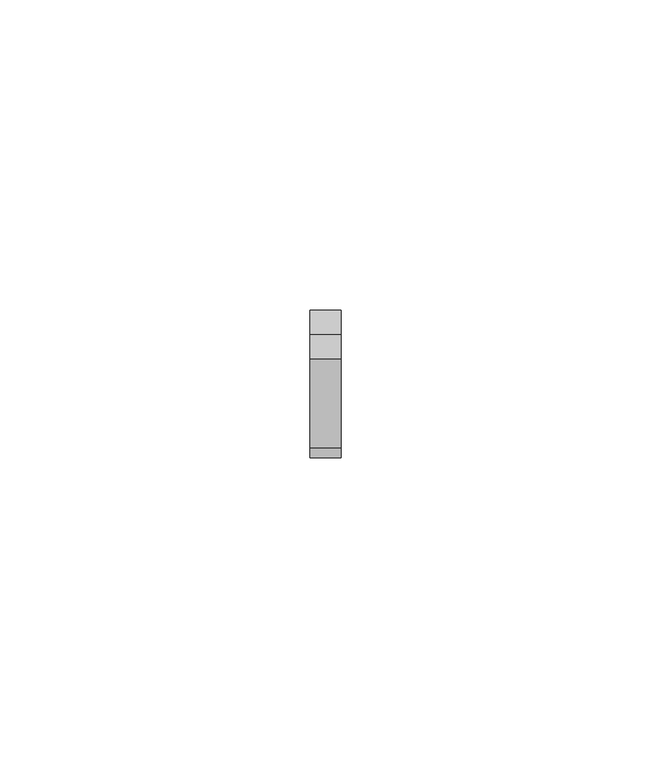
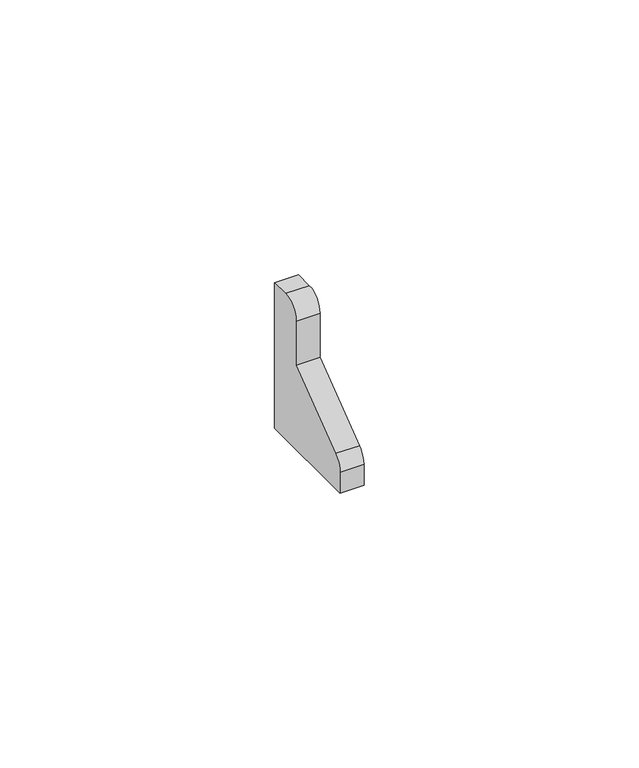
"""IFC4 building model written with IfcOpenShell, lengths in millimetres: proxy geometry, Odbojnik przyścienny K30 : Odbojnik przyścienny K30."""

from ifc_helpers import new_model, si_unit, frame, origin, place, context, project, spatial, circle_curve, source, transform, mapped, element, save
from ifc_brep_helpers import plane_surface, cylinder_surface, advanced_brep


def generic_models_93ca83c9(model_context):
    return source(origin(), model_context, "Body", "AdvancedBrep", [
        advanced_brep(
        [(2.5, 7.3720356, 24.7926359), (2.5, 3.4590893, 24.7926359), (2.5, -0.4350252, 21.0413357), (2.5, -0.4354121, 11.2071156), (2.5, -14.835873, 0.3595111), (2.5, -16.4291679, -2.8354491), (2.5, -16.4291679, -7.4688605), (2.5, 7.3720356, -7.4688605), (2.5, 7.3720356, 4.5973234), (2.5, 7.3720356, 8.5973234), (-2.5, 7.3720356, 24.7926359), (-2.5, 7.3720356, 8.5973234), (-2.5, 7.3720356, 4.5973234), (-2.5, 7.3720356, -7.4688605), (-2.5, -16.4291679, -7.4688605), (-2.5, -16.4291679, -2.8354491), (-2.5, -14.835873, 0.3595111), (-2.5, -0.4354121, 11.2071156), (-2.5, -0.4354121, 21.0412962), (-2.5, 3.4590893, 24.7926359)],
        [
            (0, 1),
            (1, 2, circle_curve(frame((2.5, 3.3190368, 21.0411872), z_axis=(1.0, 0.0, 0.0), x_axis=(0.0, -0.9999999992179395, 3.954897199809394e-05)), 3.754062)),
            (2, 3),
            (3, 4),
            (4, 5, circle_curve(frame((2.5, -12.4291679, -2.8354491), z_axis=(1.0, 0.0, 0.0), x_axis=(0.0, -1.0, 0.0)), 4.0)),
            (5, 6),
            (6, 7),
            (7, 8),
            (8, 9),
            (9, 0),
            (10, 11),
            (11, 12),
            (12, 13),
            (13, 14),
            (14, 15),
            (15, 16, circle_curve(frame((-2.5, -12.4291679, -2.8354491), z_axis=(-1.0, 0.0, 0.0), x_axis=(0.0, -1.0, 0.0)), 4.0)),
            (16, 17),
            (17, 18),
            (18, 19, circle_curve(frame((-2.5, 3.3190368, 21.0411872), z_axis=(-1.0, 0.0, 0.0), x_axis=(0.0, -0.9999999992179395, 3.954897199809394e-05)), 3.754062)),
            (19, 10),
            (6, 14),
            (13, 7),
            (12, 8),
            (11, 9),
            (10, 0),
            (19, 1),
            (18, 2),
            (17, 3),
            (16, 4),
            (15, 5),
        ],
        [
            plane_surface(frame((2.5, 7.3720356, 24.7926359), z_axis=(1.0, 0.0, 0.0), x_axis=(0.0, -1.0, 0.0))),
            plane_surface(frame((-2.5, 7.3720356, 24.7926359), z_axis=(-1.0, 0.0, 0.0), x_axis=(0.0, 1.0, 0.0))),
            plane_surface(frame((2.5, -16.4291679, -7.4688605), z_axis=(0.0, 0.0, -1.0), x_axis=(-1.0, 0.0, 0.0))),
            plane_surface(frame((2.5, 7.3720356, -7.4688605), z_axis=(0.0, 1.0, 0.0), x_axis=(-1.0, 0.0, 0.0))),
            plane_surface(frame((2.5, 7.3720356, 4.5973234), z_axis=(0.0, 1.0, -1.1571556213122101e-12), x_axis=(-1.0, 0.0, 0.0))),
            plane_surface(frame((2.5, 7.3720356, 8.5973234), z_axis=(0.0, 1.0, 0.0), x_axis=(-1.0, 0.0, 0.0))),
            plane_surface(frame((2.5, 7.3720356, 24.7926359), z_axis=(0.0, 0.0, 1.0), x_axis=(-1.0, 0.0, 0.0))),
            cylinder_surface(frame((-2.5, 3.3190368, 21.0411872), z_axis=(1.0000000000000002, 0.0, 0.0), x_axis=(0.0, -0.9999999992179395, 3.954897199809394e-05)), 3.754062),
            plane_surface(frame((2.5, -0.4354121, 21.0412962), z_axis=(0.0, -1.0, 0.0), x_axis=(-1.0, 0.0, 0.0))),
            plane_surface(frame((2.5, -0.4354121, 11.2071156), z_axis=(0.0, -0.601676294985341, 0.7987400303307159), x_axis=(-1.0, 0.0, 0.0))),
            cylinder_surface(frame((-2.5, -12.4291679, -2.8354491), z_axis=(1.0, 0.0, 0.0), x_axis=(0.0, -1.0, 0.0)), 4.0),
            plane_surface(frame((2.5, -16.4291679, -2.8354491), z_axis=(0.0, -1.0, 0.0), x_axis=(-1.0, 0.0, 0.0))),
        ],
        [
            (0, [[1, 2, 3, 4, 5, 6, 7, 8, 9, 10]]),
            (1, [[11, 12, 13, 14, 15, 16, 17, 18, 19, 20]]),
            (2, [[-7, 21, -14, 22]]),
            (3, [[-8, -22, -13, 23]]),
            (4, [[-9, -23, -12, 24]]),
            (5, [[-10, -24, -11, 25]]),
            (6, [[-1, -25, -20, 26]]),
            (7, [[-2, -26, -19, 27]]),
            (8, [[-3, -27, -18, 28]]),
            (9, [[-4, -28, -17, 29]]),
            (10, [[-5, -29, -16, 30]]),
            (11, [[-6, -30, -15, -21]]),
        ],
    ),
    ])


if __name__ == "__main__":
    model = new_model("IFC4")
    model_context = context("Model", 3, world=origin())
    ifc_project = project(units=[si_unit("LENGTHUNIT", "METRE", prefix="MILLI")], contexts=[model_context])
    site = spatial("IfcSite", under=ifc_project)
    building = spatial("IfcBuilding", under=site)
    placement = place(None, origin())
    generic_models_shape = generic_models_93ca83c9(model_context)
    element("IfcBuildingElementProxy", 1, Name="Odbojnik przyścienny K30 : Odbojnik przyścienny K30", ObjectType="Odbojnik przyścienny K30 : Odbojnik przyścienny K30", at=placement, inside=building, context=model_context, shape_type="MappedRepresentation", body=[
        mapped(generic_models_shape, transform((0.0, 0.0, 0.0), x_axis=(1.0, 0.0, 0.0), y_axis=(0.0, 1.0, 0.0), z_axis=(0.0, 0.0, 1.0))),
    ])
    save(model, "model.ifc")
